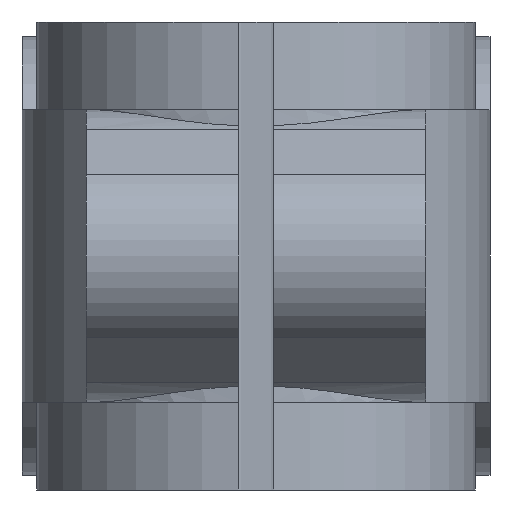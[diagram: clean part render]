
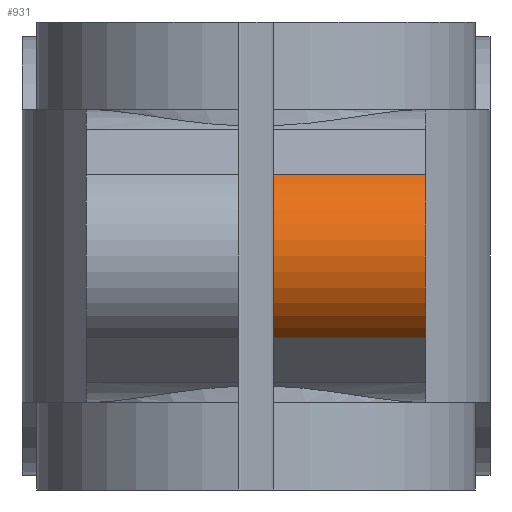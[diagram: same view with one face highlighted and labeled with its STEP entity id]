
A CAD part, left-side view. The second image highlights one B-rep face of the part: STEP entity #931.
In plain terms, the highlighted cylindrical face has radius 16 mm (diameter 32 mm), a partial arc.
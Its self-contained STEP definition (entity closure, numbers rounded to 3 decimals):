
#51 = ORIENTED_EDGE ( 'NONE', *, *, #921, .T. ) ;
#745 = VERTEX_POINT ( 'NONE', #2570 ) ;
#813 = VERTEX_POINT ( 'NONE', #2645 ) ;
#921 = EDGE_CURVE ( 'NONE', #927, #813, #2796, .T. ) ;
#927 = VERTEX_POINT ( 'NONE', #2781 ) ;
#929 = ORIENTED_EDGE ( 'NONE', *, *, #975, .T. ) ;
#930 = ORIENTED_EDGE ( 'NONE', *, *, #935, .T. ) ;
#931 = ADVANCED_FACE ( 'NONE', ( #2776 ), #2772, .T. ) ;
#932 = EDGE_LOOP ( 'NONE', ( #51, #929, #930, #933 ) ) ;
#933 = ORIENTED_EDGE ( 'NONE', *, *, #934, .F. ) ;
#934 = EDGE_CURVE ( 'NONE', #927, #936, #2832, .T. ) ;
#935 = EDGE_CURVE ( 'NONE', #745, #936, #2828, .T. ) ;
#936 = VERTEX_POINT ( 'NONE', #2823 ) ;
#975 = EDGE_CURVE ( 'NONE', #813, #745, #2882, .T. ) ;
#2006 = DIRECTION ( 'NONE',  ( 0., 0., 1. ) ) ;
#2570 = CARTESIAN_POINT ( 'NONE',  ( -54.5, -3., 53.856 ) ) ;
#2645 = CARTESIAN_POINT ( 'NONE',  ( -54.5, -29., 53.856 ) ) ;
#2770 = DIRECTION ( 'NONE',  ( 0., 1., 0. ) ) ;
#2771 = AXIS2_PLACEMENT_3D ( 'NONE', #2775, #2770, #2006 ) ;
#2772 = CYLINDRICAL_SURFACE ( 'NONE', #2771, 16. ) ;
#2775 = CARTESIAN_POINT ( 'NONE',  ( -46.5, 29., 40. ) ) ;
#2776 = FACE_OUTER_BOUND ( 'NONE', #932, .T. ) ;
#2781 = CARTESIAN_POINT ( 'NONE',  ( -54.5, -29., 26.144 ) ) ;
#2788 = DIRECTION ( 'NONE',  ( 0., 0., 1. ) ) ;
#2789 = DIRECTION ( 'NONE',  ( 0., 1., 0. ) ) ;
#2790 = CARTESIAN_POINT ( 'NONE',  ( -46.5, -29., 40. ) ) ;
#2791 = AXIS2_PLACEMENT_3D ( 'NONE', #2790, #2789, #2788 ) ;
#2796 = CIRCLE ( 'NONE', #2791, 16. ) ;
#2823 = CARTESIAN_POINT ( 'NONE',  ( -54.5, -3., 26.144 ) ) ;
#2824 = DIRECTION ( 'NONE',  ( 0., 0., 1. ) ) ;
#2825 = DIRECTION ( 'NONE',  ( 0., -1., 0. ) ) ;
#2826 = CARTESIAN_POINT ( 'NONE',  ( -46.5, -3., 40. ) ) ;
#2827 = AXIS2_PLACEMENT_3D ( 'NONE', #2826, #2825, #2824 ) ;
#2828 = CIRCLE ( 'NONE', #2827, 16. ) ;
#2829 = DIRECTION ( 'NONE',  ( 0., 1., 0. ) ) ;
#2830 = VECTOR ( 'NONE', #2829, 1000. ) ;
#2831 = CARTESIAN_POINT ( 'NONE',  ( -54.5, 29., 26.144 ) ) ;
#2832 = LINE ( 'NONE', #2831, #2830 ) ;
#2879 = DIRECTION ( 'NONE',  ( 0., 1., 0. ) ) ;
#2880 = VECTOR ( 'NONE', #2879, 1000. ) ;
#2881 = CARTESIAN_POINT ( 'NONE',  ( -54.5, 29., 53.856 ) ) ;
#2882 = LINE ( 'NONE', #2881, #2880 ) ;
